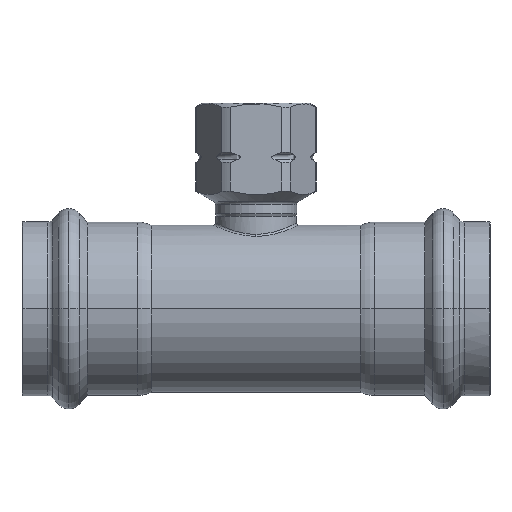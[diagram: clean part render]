
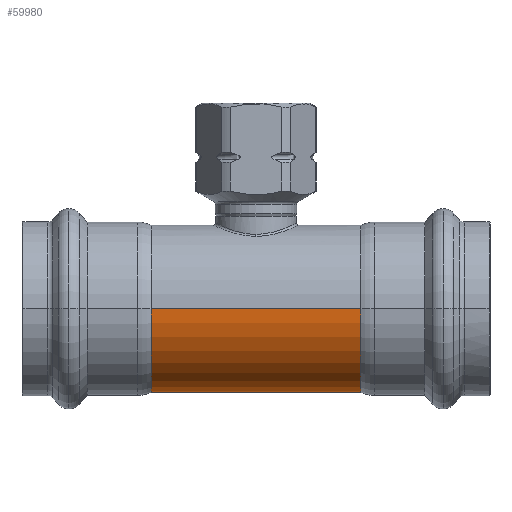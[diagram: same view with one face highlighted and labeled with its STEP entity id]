
A CAD part, left-side view. The second image highlights one B-rep face of the part: STEP entity #59980.
In plain terms, the highlighted cylindrical face has radius 18.5 mm (diameter 37 mm), a partial arc.
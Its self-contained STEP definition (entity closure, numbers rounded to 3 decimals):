
#59570=CARTESIAN_POINT('',(0.,0.,-45.5));
#59580=DIRECTION('',(0.,1.,0.));
#59590=DIRECTION('',(1.,0.,0.));
#59600=AXIS2_PLACEMENT_3D('',#59570,#59580,#59590);
#59610=CYLINDRICAL_SURFACE('',#59600,18.5);
#59620=CARTESIAN_POINT('',(18.5,0.,-45.5));
#59630=DIRECTION('',(0.,1.,0.));
#59640=VECTOR('',#59630,1.);
#59650=LINE('',#59620,#59640);
#59660=CARTESIAN_POINT('',(18.5,-23.2,-45.5));
#59670=VERTEX_POINT('',#59660);
#59680=CARTESIAN_POINT('',(18.5,23.2,-45.5));
#59690=VERTEX_POINT('',#59680);
#59700=EDGE_CURVE('',#59670,#59690,#59650,.T.);
#59710=ORIENTED_EDGE('',*,*,#59700,.F.);
#59720=CARTESIAN_POINT('',(0.,23.2,-45.5));
#59730=DIRECTION('',(0.,1.,0.));
#59740=DIRECTION('',(-1.,0.,0.));
#59750=AXIS2_PLACEMENT_3D('',#59720,#59730,#59740);
#59760=CIRCLE('',#59750,18.5);
#59770=CARTESIAN_POINT('',(-18.5,23.2,-45.5));
#59780=VERTEX_POINT('',#59770);
#59790=EDGE_CURVE('',#59690,#59780,#59760,.T.);
#59800=ORIENTED_EDGE('',*,*,#59790,.F.);
#59810=CARTESIAN_POINT('',(-18.5,0.,-45.5));
#59820=DIRECTION('',(0.,1.,0.));
#59830=VECTOR('',#59820,1.);
#59840=LINE('',#59810,#59830);
#59850=CARTESIAN_POINT('',(-18.5,-23.2,-45.5));
#59860=VERTEX_POINT('',#59850);
#59870=EDGE_CURVE('',#59860,#59780,#59840,.T.);
#59880=ORIENTED_EDGE('',*,*,#59870,.T.);
#59890=CARTESIAN_POINT('',(0.,-23.2,-45.5));
#59900=DIRECTION('',(0.,1.,0.));
#59910=DIRECTION('',(-1.,0.,0.));
#59920=AXIS2_PLACEMENT_3D('',#59890,#59900,#59910);
#59930=CIRCLE('',#59920,18.5);
#59940=EDGE_CURVE('',#59670,#59860,#59930,.T.);
#59950=ORIENTED_EDGE('',*,*,#59940,.T.);
#59960=EDGE_LOOP('',(#59950,#59880,#59800,#59710));
#59970=FACE_OUTER_BOUND('',#59960,.T.);
#59980=ADVANCED_FACE('',(#59970),#59610,.T.);
